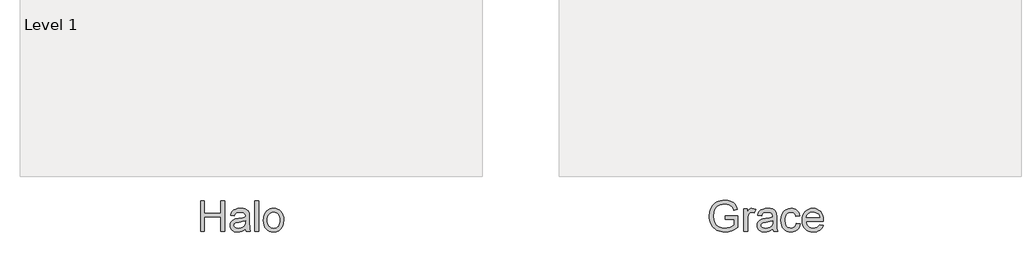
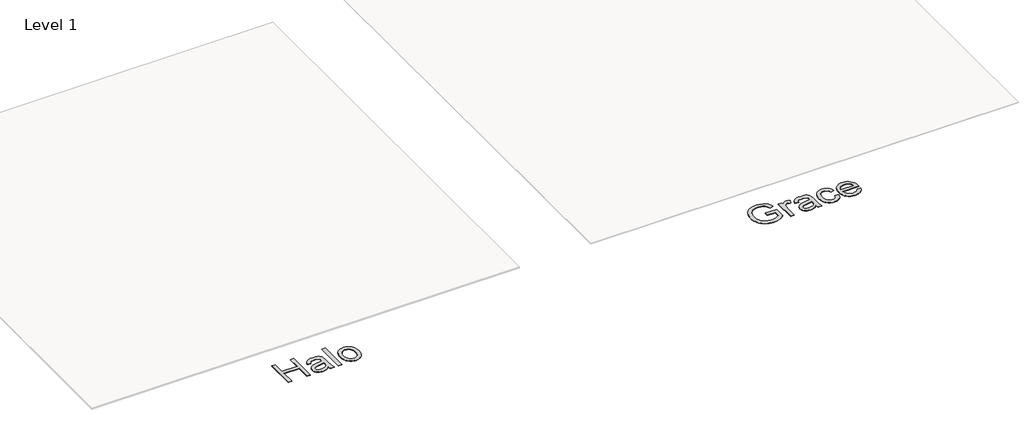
# One storey, part 5 of 5: 2 proxies.
"""IFC4 building model written with IfcOpenShell, lengths in millimetres."""

from ifc_helpers import new_model, si_unit, origin, origin_with_axes, place, context, project, spatial, polyline, outline, extrude, element, save

model = new_model("IFC4")

# Units and contexts
model_context = context("Model", 3, world=origin())
ifc_project = project(units=[si_unit("LENGTHUNIT", "METRE", prefix="MILLI")], contexts=[model_context])

# Site, building, storey
site = spatial("IfcSite", under=ifc_project)
building = spatial("IfcBuilding", under=site)
storey = spatial("IfcBuildingStorey", under=building, Name="Level 1", Elevation=0.0)

# Proxies
placement = place(None, origin())
element("IfcBuildingElementProxy", 1, Name="400mm Arial", ObjectType="400mm Arial", at=placement, inside=storey, context=model_context, shape_type="SweptSolid", body=[
    extrude(outline(polyline([(24682.0370354, 3905.1077423), (24682.0370354, 4306.9329829), (24732.2651905, 4306.9329829), (24732.2651905, 4143.6914789), (24945.7348495, 4143.6914789), (24945.7348495, 4306.9329829), (24995.9630046, 4306.9329829), (24995.9630046, 3905.1077423), (24945.7348495, 3905.1077423), (24945.7348495, 4093.4633238), (24732.2651905, 4093.4633238), (24732.2651905, 3905.1077423), (24682.0370354, 3905.1077423)])), origin_with_axes(), (0.0, 0.0, 1.0), 5.0),
    extrude(outline(polyline([(25265.9393381, 3942.7788586), (25241.9411693, 3922.2019923), (25217.231762, 3908.7375113), (25191.2470304, 3901.306295), (25163.4228888, 3898.8292229), (25141.0587292, 3900.319145), (25121.4475532, 3904.7889112), (25104.5893607, 3912.2385216), (25090.4841519, 3922.6679762), (25079.3465245, 3935.4150873), (25071.3910764, 3949.8176675), (25066.6178075, 3965.8757165), (25065.0267178, 3983.5892346), (25067.4302135, 4004.4113555), (25074.6407006, 4023.3204901), (25085.7629996, 4039.5072979), (25099.901931, 4052.1624385), (25116.5179344, 4061.7273704), (25135.0714497, 4068.6435519), (25178.5305761, 4076.1973955), (25229.8869026, 4084.1436466), (25265.6450325, 4093.4633238), (25265.9393381, 4104.6469365), (25262.4812474, 4127.0632127), (25252.1069751, 4141.7294416), (25228.905884, 4152.6187487), (25196.5813193, 4156.2485177), (25166.6602504, 4153.8327592), (25145.764553, 4146.5854839), (25131.5152571, 4133.1823166), (25121.5333923, 4112.298882), (25071.3052372, 4118.5774014), (25080.0240405, 4146.0459237), (25093.0348004, 4167.6283341), (25111.5515275, 4184.1339729), (25136.7882324, 4196.3721806), (25167.6535318, 4203.9505497), (25203.0560424, 4206.4766728), (25237.0115506, 4204.2448553), (25263.9282499, 4197.549403), (25284.2230733, 4187.4816991), (25298.3129537, 4175.1331268), (25307.6571564, 4159.866024), (25313.7149466, 4141.0427285), (25316.1674932, 4097.0930929), (25316.1674932, 4034.6022046), (25318.7181417, 3947.3405954), (25328.724532, 3905.1077423), (25278.4963769, 3905.1077423), (25270.4520239, 3922.5698743), (25265.9393381, 3942.7788586)]), holes=[polyline([(25265.9393381, 4043.2351688), (25232.1922964, 4034.8719847), (25184.9071973, 4027.8331759), (25141.6933256, 4019.6907211), (25130.4483993, 4014.1234402), (25122.1220035, 4006.4469692), (25116.9716556, 3997.2499194), (25115.2548729, 3987.1209018), (25118.9950065, 3972.1848928), (25130.2154074, 3959.9466851), (25148.6708208, 3951.7797048), (25174.1159921, 3949.057378), (25201.0940051, 3952.0617476), (25224.9327584, 3961.0748565), (25244.2588259, 3974.3553965), (25257.6987814, 3990.1620596), (25263.6584698, 4006.4469692), (25265.6450325, 4029.0103983), (25265.9393381, 4043.2351688)])]), origin_with_axes(), (0.0, 0.0, 1.0), 5.0),
    extrude(outline(polyline([(25385.2312064, 3905.1077423), (25385.2312064, 4306.9329829), (25435.4593615, 4306.9329829), (25435.4593615, 3905.1077423), (25385.2312064, 3905.1077423)])), origin_with_axes(), (0.0, 0.0, 1.0), 5.0),
    extrude(outline(polyline([(25498.2445554, 4052.6529478), (25500.9607508, 4090.8697558), (25509.1093369, 4123.8013257), (25522.6903139, 4151.4476576), (25541.7036817, 4173.8087516), (25560.8458082, 4188.1009671), (25581.9744975, 4198.3096925), (25605.0897495, 4204.4349277), (25630.1915643, 4206.4766728), (25657.9022756, 4203.9904036), (25682.9581051, 4196.5315962), (25705.359053, 4184.1002504), (25725.105119, 4166.6963663), (25741.2214161, 4144.9085552), (25752.7330569, 4119.3254281), (25759.6400413, 4089.9469851), (25761.9423695, 4056.7732262), (25757.8711421, 4006.0300363), (25745.6574598, 3967.4024268), (25725.656942, 3938.4746393), (25698.2252079, 3916.8309152), (25665.6431259, 3903.329646), (25630.1915643, 3898.8292229), (25602.0761828, 3901.306295), (25576.7873613, 3908.7375113), (25554.3250998, 3921.1228718), (25534.6893983, 3938.4623765), (25518.7447795, 3960.4617198), (25507.3557661, 3986.8265962), (25500.522358, 4017.5570055), (25498.2445554, 4052.6529478)]), holes=[polyline([(25548.4727104, 4052.7510497), (25549.9258443, 4028.3880646), (25554.285246, 4007.2930978), (25561.5509154, 3989.4661495), (25571.7228525, 3974.9072195), (25584.0959503, 3963.5979139), (25597.9651015, 3955.5198384), (25613.3303062, 3950.6729931), (25630.1915643, 3949.057378), (25646.9669833, 3950.6821901), (25662.2708743, 3955.5566266), (25676.1032373, 3963.6806873), (25688.4640723, 3975.0543723), (25698.6360095, 3989.7573894), (25705.9016789, 4007.8694463), (25710.2610805, 4029.390543), (25711.7142144, 4054.3206795), (25710.2518835, 4077.9111125), (25705.8648907, 4098.4542562), (25698.553236, 4115.9501108), (25688.3169195, 4130.3986762), (25675.9100992, 4141.7079818), (25662.0869333, 4149.7860573), (25646.8474216, 4154.6329026), (25630.1915643, 4156.2485177), (25613.3303062, 4154.639034), (25597.9651015, 4149.8105828), (25584.0959503, 4141.7631641), (25571.7228525, 4130.496778), (25561.5509154, 4115.9807676), (25554.285246, 4098.1844761), (25549.9258443, 4077.1079035), (25548.4727104, 4052.7510497)])]), origin_with_axes(), (0.0, 0.0, 1.0), 5.0),
])
element("IfcBuildingElementProxy", 2, Name="400mm Arial", ObjectType="400mm Arial", at=placement, inside=storey, context=model_context, shape_type="SweptSolid", body=[
    extrude(outline(polyline([(31496.828292, 4062.0707269), (31496.828292, 4112.298882), (31660.069796, 4112.298882), (31660.069796, 3962.1049261), (31620.3998541, 3934.5137765), (31579.4791135, 3914.7217251), (31537.405676, 3902.8023485), (31494.2776435, 3898.8292229), (31465.426498, 3900.4080498), (31437.9303845, 3905.1445305), (31411.7893031, 3913.038665), (31387.0032537, 3924.0904533), (31364.3723796, 3938.1343484), (31344.6968242, 3955.0048036), (31327.9765875, 3974.7018187), (31314.2116696, 3997.2253939), (31303.4603182, 4021.8550935), (31295.7807816, 4047.8704819), (31291.1730596, 4075.2715592), (31289.6371523, 4104.0583253), (31295.7562561, 4160.6508389), (31303.4051359, 4187.4663707), (31314.1135677, 4213.2947524), (31327.691479, 4237.0016813), (31343.9487975, 4257.4528546), (31362.8855232, 4274.6482721), (31384.5016561, 4288.5879341), (31408.3281467, 4299.3607452), (31433.8959453, 4307.0556102), (31461.2050521, 4311.6725293), (31490.255467, 4313.2115023), (31531.6299287, 4309.6430469), (31568.8350612, 4298.9376809), (31600.1663444, 4281.8679563), (31623.9192586, 4259.2064254), (31641.4917552, 4229.8617049), (31654.2817859, 4192.7424116), (31607.9777054, 4179.6948635), (31597.6402214, 4206.1701044), (31585.0709199, 4226.1460968), (31568.4426537, 4241.2047331), (31545.9282756, 4252.927906), (31519.0851527, 4260.4694869), (31489.4706521, 4262.9833472), (31454.8039054, 4260.2732832), (31425.1648793, 4252.1430911), (31400.6639384, 4239.6105778), (31381.4114473, 4223.6935501), (31366.6348539, 4205.2136112), (31355.5616058, 4184.9923642), (31343.789382, 4147.0759933), (31339.8653074, 4106.1184645), (31344.5864596, 4058.0853386), (31358.7499164, 4018.5625496), (31381.9264821, 3987.8321403), (31413.6869611, 3966.1761535), (31450.8553053, 3953.3370719), (31490.255467, 3949.057378), (31525.044841, 3952.2824768), (31558.9758237, 3961.9577733), (31588.4431715, 3975.2873643), (31609.8416409, 3989.4753465), (31609.8416409, 4062.0707269), (31496.828292, 4062.0707269)])), origin_with_axes(), (0.0, 0.0, 1.0), 5.0),
    extrude(outline(polyline([(31735.4120286, 3905.1077423), (31735.4120286, 4200.1981534), (31779.3616643, 4200.1981534), (31779.3616643, 4156.5428233), (31795.597523, 4181.8531045), (31810.5580574, 4196.7645881), (31825.5676429, 4204.0486516), (31841.9506544, 4206.4766728), (31866.96663, 4202.6016491), (31892.3750132, 4190.976578), (31875.5995942, 4145.9478218), (31857.9412584, 4153.6733437), (31840.2829227, 4156.2485177), (31825.2856, 4153.7714456), (31811.8824326, 4146.3402293), (31801.0544392, 4134.5189545), (31793.7826385, 4118.871707), (31787.6757973, 4090.8145735), (31785.6401836, 4060.2067915), (31785.6401836, 3905.1077423), (31735.4120286, 3905.1077423)])), origin_with_axes(), (0.0, 0.0, 1.0), 5.0),
    extrude(outline(polyline([(32112.1231916, 3942.7788586), (32088.1250228, 3922.2019923), (32063.4156155, 3908.7375113), (32037.4308839, 3901.306295), (32009.6067423, 3898.8292229), (31987.2425827, 3900.319145), (31967.6314067, 3904.7889112), (31950.7732142, 3912.2385216), (31936.6680054, 3922.6679762), (31925.530378, 3935.4150873), (31917.5749298, 3949.8176675), (31912.801661, 3965.8757165), (31911.2105713, 3983.5892346), (31913.614067, 4004.4113555), (31920.8245541, 4023.3204901), (31931.9468531, 4039.5072979), (31946.0857845, 4052.1624385), (31962.7017879, 4061.7273704), (31981.2553032, 4068.6435519), (32024.7144296, 4076.1973955), (32076.0707561, 4084.1436466), (32111.828886, 4093.4633238), (32112.1231916, 4104.6469365), (32108.6651009, 4127.0632127), (32098.2908286, 4141.7294416), (32075.0897374, 4152.6187487), (32042.7651728, 4156.2485177), (32012.8441039, 4153.8327592), (31991.9484065, 4146.5854839), (31977.6991106, 4133.1823166), (31967.7172458, 4112.298882), (31917.4890907, 4118.5774014), (31926.207894, 4146.0459237), (31939.2186539, 4167.6283341), (31957.735381, 4184.1339729), (31982.9720859, 4196.3721806), (32013.8373853, 4203.9505497), (32049.2398959, 4206.4766728), (32083.1954041, 4204.2448553), (32110.1121034, 4197.549403), (32130.4069268, 4187.4816991), (32144.4968072, 4175.1331268), (32153.8410099, 4159.866024), (32159.8988001, 4141.0427285), (32162.3513467, 4097.0930929), (32162.3513467, 4034.6022046), (32164.9019952, 3947.3405954), (32174.9083855, 3905.1077423), (32124.6802304, 3905.1077423), (32116.6358774, 3922.5698743), (32112.1231916, 3942.7788586)]), holes=[polyline([(32112.1231916, 4043.2351688), (32078.3761499, 4034.8719847), (32031.0910508, 4027.8331759), (31987.8771791, 4019.6907211), (31976.6322528, 4014.1234402), (31968.305857, 4006.4469692), (31963.155509, 3997.2499194), (31961.4387264, 3987.1209018), (31965.17886, 3972.1848928), (31976.3992609, 3959.9466851), (31994.8546743, 3951.7797048), (32020.2998456, 3949.057378), (32047.2778586, 3952.0617476), (32071.1166119, 3961.0748565), (32090.4426794, 3974.3553965), (32103.8826349, 3990.1620596), (32109.8423233, 4006.4469692), (32111.828886, 4029.0103983), (32112.1231916, 4043.2351688)])]), origin_with_axes(), (0.0, 0.0, 1.0), 5.0),
    extrude(outline(polyline([(32419.7706415, 4011.8425718), (32469.9987965, 4005.5640525), (32464.5357489, 3981.8632549), (32455.9947553, 3960.8909155), (32444.3758156, 3942.6470342), (32429.6789299, 3927.1316111), (32412.5233662, 3914.7493163), (32393.5283925, 3905.90482), (32372.6940088, 3900.5981222), (32350.0202152, 3898.8292229), (32321.8496514, 3901.297098), (32296.5914867, 3908.7007231), (32274.2457212, 3921.0400984), (32254.8123548, 3938.3152237), (32239.0823338, 3960.2011368), (32227.8466046, 3986.372875), (32221.105167, 4016.8304386), (32218.8580212, 4051.5738273), (32222.6962566, 4096.2714897), (32234.2109631, 4135.0094638), (32253.5860815, 4166.2916961), (32281.0055529, 4188.6221333), (32313.8083641, 4202.0130379), (32349.3335021, 4206.4766728), (32371.617954, 4204.9438311), (32391.7748216, 4200.3453062), (32409.8041051, 4192.6810979), (32425.7058043, 4181.9512064), (32439.2101392, 4168.4008863), (32450.0473297, 4152.2753921), (32458.2173756, 4133.574724), (32463.7202772, 4112.298882), (32413.4921221, 4106.0203626), (32404.3809113, 4127.9338668), (32390.192929, 4143.642428), (32371.7129902, 4153.0969953), (32349.7259096, 4156.2485177), (32332.6592507, 4154.6972819), (32317.2664549, 4150.0435747), (32303.5475221, 4142.287396), (32291.5024525, 4131.4287457), (32281.6953316, 4117.216238), (32274.6902453, 4099.3984867), (32270.4871935, 4077.9754918), (32269.0861762, 4052.9472534), (32274.567618, 4005.8706208), (32281.4194201, 3987.9333078), (32291.0119432, 3973.7299971), (32302.8178895, 3962.9357263), (32316.3099617, 3955.2255328), (32331.4881597, 3950.5994167), (32348.3524835, 3949.057378), (32374.3617405, 3952.9078762), (32395.6866335, 3964.4593709), (32411.198991, 3984.0061675), (32419.7706415, 4011.8425718)])), origin_with_axes(), (0.0, 0.0, 1.0), 5.0),
    extrude(outline(polyline([(32720.5509607, 3993.0070137), (32769.7980971, 3986.7284943), (32762.2473192, 3967.003888), (32752.0539222, 3949.6214637), (32739.2179063, 3934.5812215), (32723.7392713, 3921.8831613), (32705.7774329, 3911.7970633), (32685.4918066, 3904.5927075), (32637.9491901, 3898.8292229), (32606.7834537, 3901.3154921), (32579.0144944, 3908.7742995), (32554.6423123, 3921.2056453), (32533.6669072, 3938.6095293), (32516.7995177, 3960.5015737), (32504.7513823, 3986.3974005), (32497.5225011, 4016.2970097), (32495.1128741, 4050.2004012), (32497.5470266, 4085.253424), (32504.8494842, 4116.1493802), (32517.0202469, 4142.8882699), (32534.0593146, 4165.470093), (32554.9795374, 4183.4104717), (32578.7937652, 4196.2250278), (32605.5019981, 4203.9137615), (32635.104236, 4206.4766728), (32663.7530463, 4203.9198929), (32689.6611359, 4196.2495533), (32712.8285045, 4183.465654), (32733.2551523, 4165.5681949), (32749.9294037, 4143.0354227), (32761.8395833, 4116.3455839), (32768.9856911, 4085.4986786), (32771.367727, 4050.4947068), (32771.0734214, 4036.9566494), (32545.3410291, 4036.9566494), (32548.2503626, 4016.913212), (32554.035307, 3999.3591095), (32562.6958623, 3984.2943418), (32574.2320285, 3971.7189089), (32588.0061435, 3961.8044891), (32603.3805453, 3954.7227607), (32638.9302087, 3949.057378), (32665.662967, 3951.6816029), (32688.1773451, 3959.5542776), (32706.473343, 3973.1659114), (32720.5509607, 3993.0070137)]), holes=[polyline([(32545.3410291, 4087.1848045), (32721.1395719, 4087.1848045), (32714.3460177, 4113.721359), (32701.0286895, 4132.70407), (32687.3312166, 4143.0047659), (32671.7452827, 4150.3624058), (32654.2708879, 4154.7769897), (32634.9080322, 4156.2485177), (32601.050626, 4151.5518909), (32573.0548061, 4137.4620105), (32553.5938486, 4115.4994553), (32545.3410291, 4087.1848045)])]), origin_with_axes(), (0.0, 0.0, 1.0), 5.0),
])

save(model, "model.ifc")
